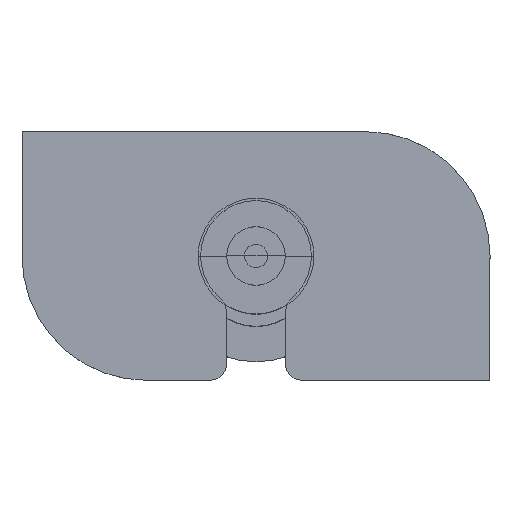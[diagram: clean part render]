
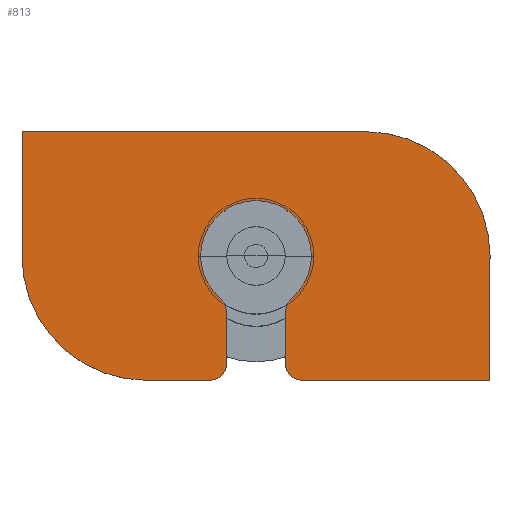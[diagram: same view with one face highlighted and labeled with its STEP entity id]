
A CAD part, top view. The second image highlights one B-rep face of the part: STEP entity #813.
In plain terms, the highlighted planar face has unit normal (0, 0, 1).
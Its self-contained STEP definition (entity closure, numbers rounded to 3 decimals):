
#32=B_SPLINE_CURVE_WITH_KNOTS('',3,(#1333,#1334,#1335,#1336,#1337,#1338,
#1339,#1340,#1341),.UNSPECIFIED.,.F.,.F.,(4,1,1,1,1,1,4),(0.,0.167,
0.333,0.5,0.667,0.833,1.),
 .UNSPECIFIED.);
#33=B_SPLINE_CURVE_WITH_KNOTS('',3,(#1342,#1343,#1344,#1345,#1346,#1347,
#1348),.UNSPECIFIED.,.F.,.F.,(4,1,1,1,4),(0.,0.25,0.5,0.75,1.),
 .UNSPECIFIED.);
#34=B_SPLINE_CURVE_WITH_KNOTS('',3,(#1349,#1350,#1351,#1352,#1353,#1354,
#1355),.UNSPECIFIED.,.F.,.F.,(4,1,1,1,4),(0.,0.25,0.5,0.75,1.),
 .UNSPECIFIED.);
#35=B_SPLINE_CURVE_WITH_KNOTS('',3,(#1356,#1357,#1358,#1359,#1360,#1361,
#1362,#1363,#1364),.UNSPECIFIED.,.F.,.F.,(4,1,1,1,1,1,4),(0.,0.167,
0.333,0.5,0.667,0.833,1.),
 .UNSPECIFIED.);
#50=CIRCLE('',#868,8.5);
#52=CIRCLE('',#874,3.788);
#54=CIRCLE('',#879,8.5);
#124=FACE_OUTER_BOUND('',#178,.T.);
#178=EDGE_LOOP('',(#601,#602,#603,#604,#605,#606,#607,#608,#609,#610,#611,
#612,#613,#614));
#221=LINE('',#1230,#285);
#226=LINE('',#1244,#290);
#229=LINE('',#1250,#293);
#232=LINE('',#1257,#296);
#238=LINE('',#1275,#302);
#242=LINE('',#1284,#306);
#247=LINE('',#1297,#311);
#285=VECTOR('',#969,304.8);
#290=VECTOR('',#982,304.8);
#293=VECTOR('',#987,304.8);
#296=VECTOR('',#992,304.8);
#302=VECTOR('',#1006,304.8);
#306=VECTOR('',#1012,304.8);
#311=VECTOR('',#1025,304.8);
#349=VERTEX_POINT('',#1228);
#350=VERTEX_POINT('',#1229);
#353=VERTEX_POINT('',#1237);
#355=VERTEX_POINT('',#1243);
#357=VERTEX_POINT('',#1249);
#359=VERTEX_POINT('',#1255);
#360=VERTEX_POINT('',#1256);
#363=VERTEX_POINT('',#1264);
#364=VERTEX_POINT('',#1265);
#367=VERTEX_POINT('',#1273);
#368=VERTEX_POINT('',#1274);
#371=VERTEX_POINT('',#1282);
#372=VERTEX_POINT('',#1283);
#375=VERTEX_POINT('',#1291);
#421=EDGE_CURVE('',#349,#350,#221,.T.);
#425=EDGE_CURVE('',#353,#349,#50,.T.);
#428=EDGE_CURVE('',#355,#353,#226,.T.);
#431=EDGE_CURVE('',#357,#355,#229,.T.);
#434=EDGE_CURVE('',#359,#360,#232,.T.);
#438=EDGE_CURVE('',#363,#364,#52,.T.);
#442=EDGE_CURVE('',#367,#368,#238,.T.);
#446=EDGE_CURVE('',#371,#372,#242,.T.);
#450=EDGE_CURVE('',#375,#371,#54,.T.);
#453=EDGE_CURVE('',#350,#375,#247,.T.);
#459=EDGE_CURVE('',#372,#367,#32,.T.);
#460=EDGE_CURVE('',#368,#363,#33,.T.);
#461=EDGE_CURVE('',#364,#359,#34,.T.);
#462=EDGE_CURVE('',#360,#357,#35,.T.);
#601=ORIENTED_EDGE('',*,*,#453,.T.);
#602=ORIENTED_EDGE('',*,*,#450,.T.);
#603=ORIENTED_EDGE('',*,*,#446,.T.);
#604=ORIENTED_EDGE('',*,*,#459,.T.);
#605=ORIENTED_EDGE('',*,*,#442,.T.);
#606=ORIENTED_EDGE('',*,*,#460,.T.);
#607=ORIENTED_EDGE('',*,*,#438,.T.);
#608=ORIENTED_EDGE('',*,*,#461,.T.);
#609=ORIENTED_EDGE('',*,*,#434,.T.);
#610=ORIENTED_EDGE('',*,*,#462,.T.);
#611=ORIENTED_EDGE('',*,*,#431,.T.);
#612=ORIENTED_EDGE('',*,*,#428,.T.);
#613=ORIENTED_EDGE('',*,*,#425,.T.);
#614=ORIENTED_EDGE('',*,*,#421,.T.);
#783=PLANE('',#883);
#813=ADVANCED_FACE('',(#124),#783,.T.);
#868=AXIS2_PLACEMENT_3D('',#1238,#975,#976);
#874=AXIS2_PLACEMENT_3D('',#1266,#998,#999);
#879=AXIS2_PLACEMENT_3D('',#1292,#1018,#1019);
#883=AXIS2_PLACEMENT_3D('',#1332,#1029,#1030);
#969=DIRECTION('',(-1.,0.,0.));
#975=DIRECTION('center_axis',(0.,0.,1.));
#976=DIRECTION('ref_axis',(-1.,0.,0.));
#982=DIRECTION('',(0.,1.,0.));
#987=DIRECTION('',(1.,0.,0.));
#992=DIRECTION('',(0.,-1.,0.));
#998=DIRECTION('center_axis',(0.,0.,-1.));
#999=DIRECTION('ref_axis',(1.,0.,0.));
#1006=DIRECTION('',(0.,1.,0.));
#1012=DIRECTION('',(1.,0.,0.));
#1018=DIRECTION('center_axis',(0.,0.,1.));
#1019=DIRECTION('ref_axis',(1.,0.,0.));
#1025=DIRECTION('',(0.,-1.,0.));
#1029=DIRECTION('center_axis',(0.,0.,1.));
#1030=DIRECTION('ref_axis',(0.,-1.,0.));
#1228=CARTESIAN_POINT('',(7.5,8.5,13.807));
#1229=CARTESIAN_POINT('',(-16.,8.5,13.807));
#1230=CARTESIAN_POINT('',(7.5,8.5,13.807));
#1237=CARTESIAN_POINT('',(16.,0.,13.807));
#1238=CARTESIAN_POINT('Origin',(7.5,0.,
13.807));
#1243=CARTESIAN_POINT('',(16.,-8.5,13.807));
#1244=CARTESIAN_POINT('',(16.,-8.5,13.807));
#1249=CARTESIAN_POINT('',(3.153,-8.5,13.807));
#1250=CARTESIAN_POINT('',(3.153,-8.5,13.807));
#1255=CARTESIAN_POINT('',(2.,-3.949,13.807));
#1256=CARTESIAN_POINT('',(2.,-7.347,13.807));
#1257=CARTESIAN_POINT('',(2.,-3.949,13.807));
#1264=CARTESIAN_POINT('',(-2.499,-2.846,13.807));
#1265=CARTESIAN_POINT('',(2.499,-2.846,13.807));
#1266=CARTESIAN_POINT('Origin',(0.,0.,
13.807));
#1273=CARTESIAN_POINT('',(-2.,-7.347,13.807));
#1274=CARTESIAN_POINT('',(-2.,-3.949,13.807));
#1275=CARTESIAN_POINT('',(-2.,-7.347,13.807));
#1282=CARTESIAN_POINT('',(-7.5,-8.5,13.807));
#1283=CARTESIAN_POINT('',(-3.153,-8.5,13.807));
#1284=CARTESIAN_POINT('',(-7.5,-8.5,13.807));
#1291=CARTESIAN_POINT('',(-16.,0.,13.807));
#1292=CARTESIAN_POINT('Origin',(-7.5,0.,
13.807));
#1297=CARTESIAN_POINT('',(-16.,8.5,13.807));
#1332=CARTESIAN_POINT('Origin',(-16.,8.5,13.807));
#1333=CARTESIAN_POINT('Ctrl Pts',(-3.153,-8.5,13.807));
#1334=CARTESIAN_POINT('Ctrl Pts',(-3.052,-8.5,13.807));
#1335=CARTESIAN_POINT('Ctrl Pts',(-2.851,-8.473,13.807));
#1336=CARTESIAN_POINT('Ctrl Pts',(-2.57,-8.357,13.807));
#1337=CARTESIAN_POINT('Ctrl Pts',(-2.328,-8.172,13.807));
#1338=CARTESIAN_POINT('Ctrl Pts',(-2.143,-7.93,13.807));
#1339=CARTESIAN_POINT('Ctrl Pts',(-2.027,-7.649,13.807));
#1340=CARTESIAN_POINT('Ctrl Pts',(-2.,-7.448,13.807));
#1341=CARTESIAN_POINT('Ctrl Pts',(-2.,-7.347,13.807));
#1342=CARTESIAN_POINT('Ctrl Pts',(-2.,-3.949,13.807));
#1343=CARTESIAN_POINT('Ctrl Pts',(-2.,-3.845,13.807));
#1344=CARTESIAN_POINT('Ctrl Pts',(-2.022,-3.637,13.807));
#1345=CARTESIAN_POINT('Ctrl Pts',(-2.121,-3.339,13.807));
#1346=CARTESIAN_POINT('Ctrl Pts',(-2.28,-3.069,13.807));
#1347=CARTESIAN_POINT('Ctrl Pts',(-2.421,-2.915,13.807));
#1348=CARTESIAN_POINT('Ctrl Pts',(-2.499,-2.846,13.807));
#1349=CARTESIAN_POINT('Ctrl Pts',(2.499,-2.846,13.807));
#1350=CARTESIAN_POINT('Ctrl Pts',(2.421,-2.915,13.807));
#1351=CARTESIAN_POINT('Ctrl Pts',(2.28,-3.069,13.807));
#1352=CARTESIAN_POINT('Ctrl Pts',(2.121,-3.339,13.807));
#1353=CARTESIAN_POINT('Ctrl Pts',(2.022,-3.637,13.807));
#1354=CARTESIAN_POINT('Ctrl Pts',(2.,-3.845,13.807));
#1355=CARTESIAN_POINT('Ctrl Pts',(2.,-3.949,13.807));
#1356=CARTESIAN_POINT('Ctrl Pts',(2.,-7.347,13.807));
#1357=CARTESIAN_POINT('Ctrl Pts',(2.,-7.448,13.807));
#1358=CARTESIAN_POINT('Ctrl Pts',(2.027,-7.649,13.807));
#1359=CARTESIAN_POINT('Ctrl Pts',(2.143,-7.93,13.807));
#1360=CARTESIAN_POINT('Ctrl Pts',(2.328,-8.172,13.807));
#1361=CARTESIAN_POINT('Ctrl Pts',(2.57,-8.357,13.807));
#1362=CARTESIAN_POINT('Ctrl Pts',(2.851,-8.473,13.807));
#1363=CARTESIAN_POINT('Ctrl Pts',(3.052,-8.5,13.807));
#1364=CARTESIAN_POINT('Ctrl Pts',(3.153,-8.5,13.807));
